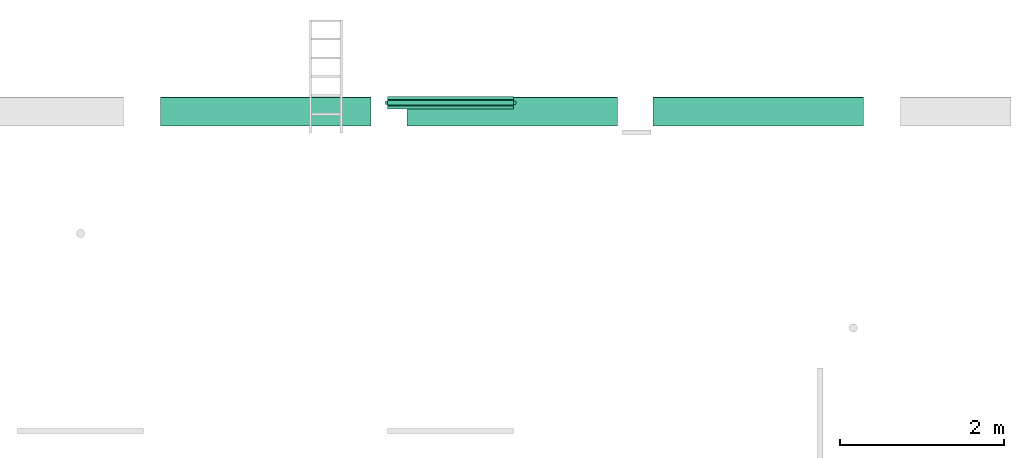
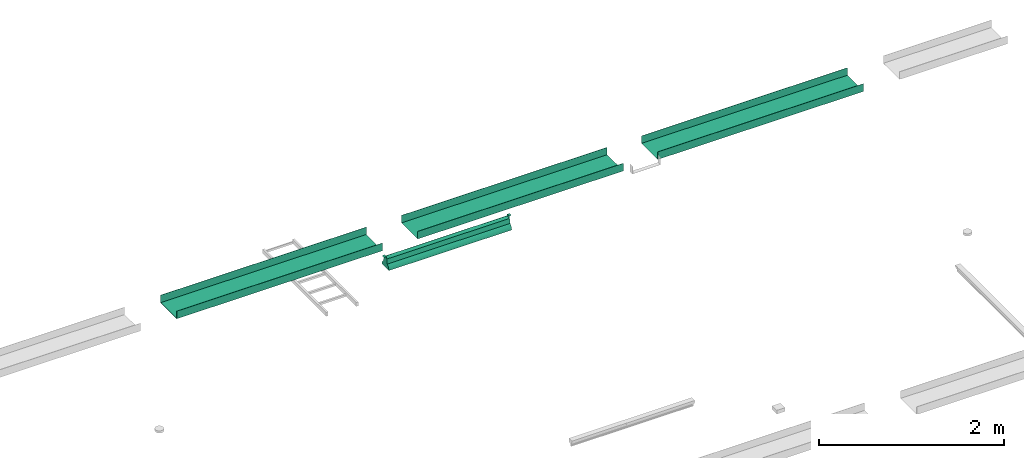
# One storey, part 4 of 14: 3 flow segments, 1 flow terminal.
"""IFC2X3 building model written with IfcOpenShell, lengths in millimetres."""

from ifc_helpers import new_model, entity, si_unit, converted_unit, derived_unit, direction, frame, origin_with_axes, place, context, subcontext, project, spatial, open_shell, surface_model, source, transform, mapped, type_object, element, save


model = new_model("IFC2X3")

# Units and contexts
model_context = context("Model", 3, precision=0.01, world=frame((0.0, 4.29681676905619e-09, 0.0)), true_north=direction((4.01073788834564e-13, 1.0)))
plan_context = context("Plan", 3, precision=0.01, world=frame((0.0, 4.29681676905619e-09, 0.0)), true_north=direction((4.01073788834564e-13, 1.0)))
body_context = subcontext(model_context, "Body", "Model", "MODEL_VIEW")
ifc_project = project(units=[converted_unit("PLANEANGLEUNIT", "DEGREE", entity("IfcPositiveLengthMeasure", 0.0174532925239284), si_unit("PLANEANGLEUNIT", "RADIAN"), dimensions=[0, 0, 0, 0, 0, 0, 0]), si_unit("AREAUNIT", "SQUARE_METRE"), si_unit("LENGTHUNIT", "METRE", prefix="MILLI"), si_unit("MASSUNIT", "GRAM", prefix="KILO"), si_unit("POWERUNIT", "WATT"), si_unit("PRESSUREUNIT", "PASCAL", prefix="KILO"), si_unit("FORCEUNIT", "NEWTON", prefix="KILO"), si_unit("ELECTRICVOLTAGEUNIT", "VOLT"), si_unit("ELECTRICCURRENTUNIT", "AMPERE"), si_unit("THERMODYNAMICTEMPERATUREUNIT", "DEGREE_CELSIUS"), si_unit("TIMEUNIT", "SECOND"), si_unit("VOLUMEUNIT", "CUBIC_METRE"), derived_unit("LINEARVELOCITYUNIT", [(si_unit("LENGTHUNIT", "METRE"), 1), (si_unit("TIMEUNIT", "SECOND"), -1)]), derived_unit("VOLUMETRICFLOWRATEUNIT", [(si_unit("VOLUMEUNIT", "CUBIC_METRE"), 1), (si_unit("TIMEUNIT", "SECOND"), -1)]), derived_unit("THERMALTRANSMITTANCEUNIT", [(si_unit("POWERUNIT", "WATT"), 1), (si_unit("THERMODYNAMICTEMPERATUREUNIT", "KELVIN"), -1), (si_unit("AREAUNIT", "SQUARE_METRE"), -1)]), derived_unit("SOUNDPRESSUREUNIT", [(si_unit("PRESSUREUNIT", "PASCAL"), 1)])], contexts=[model_context, plan_context])

# Site, building, storey
site_placement = place(None, frame((0.0, -4.29681676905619e-09, 0.0), z_axis=(0.0, 0.0, 1.0), x_axis=(1.0, 0.0, 0.0)))
site = spatial("IfcSite", under=ifc_project, at=site_placement, Name="ENGM", CompositionType="ELEMENT")
building_placement = place(site_placement, frame((0.0, 4.29681676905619e-09, 0.0), z_axis=(0.0, 0.0, 1.0), x_axis=(1.0, 0.0, 0.0)))
building = spatial("IfcBuilding", under=site, at=building_placement, Name="TG", CompositionType="ELEMENT")
storey_placement = place(building_placement, frame((0.0, 0.0, 205200.0), z_axis=(0.0, 0.0, 1.0), x_axis=(1.0, 0.0, 0.0)))
storey = spatial("IfcBuildingStorey", under=building, at=storey_placement, Name="Nivå D + 1,2", CompositionType="ELEMENT", Elevation=205200.0)

# Flow segments
cable_carrier_segment_type = type_object("IfcCableCarrierSegmentType", Name="Kabelbane", PredefinedType="CABLETRAYSEGMENT")
shared_shape_1 = source(origin_with_axes(), body_context, "Body", "SurfaceModel", [
    surface_model("IfcShellBasedSurfaceModel", [(0.0, -175.0, 50.0), (0.0, -172.46, -47.46), (0.0, -175.0, -50.0), (0.0, 175.0, -50.0), (0.0, -172.46, 50.0), (0.0, 175.0, 50.0), (0.0, 172.46, -47.46), (0.0, 172.46, 50.0), (2560.02513, -175.0, -50.0), (2560.02513, -172.46, -47.46), (2560.02513, -175.0, 50.0), (2560.02513, 175.0, -50.0), (2560.02513, -172.46, 50.0), (2560.02513, 172.46, -47.46), (2560.02513, 175.0, 50.0), (2560.02513, 172.46, 50.0)], [open_shell([[[0, 1, 2]], [[3, 2, 1]], [[1, 0, 4]], [[5, 3, 6]], [[1, 6, 3]], [[6, 7, 5]], [[8, 9, 10]], [[9, 8, 11]], [[12, 10, 9]], [[13, 11, 14]], [[11, 13, 9]], [[14, 15, 13]], [[2, 8, 10]], [[10, 0, 2]], [[0, 10, 12]], [[12, 4, 0]], [[4, 12, 9]], [[9, 1, 4]], [[1, 9, 13]], [[13, 6, 1]], [[6, 13, 15]], [[15, 7, 6]], [[7, 15, 14]], [[14, 5, 7]], [[5, 14, 11]], [[11, 3, 5]], [[3, 11, 8]], [[8, 2, 3]]])]),
])
for number, where, z_axis, x_axis in (
    (1, (341280.0125, 466385.4934, 4900.0), (0.0, 0.0, 1.0), (-1.0, 0.0, 0.0)),
    (2, (344280.0125, 466385.4934, 4900.0), (0.0, 0.0, 1.0), (-1.0, 0.0, 0.0)),
    (3, (347269.9875, 466385.4934, 4900.0), (0.0, 0.0, 1.0), (-1.0, 0.0, 0.0)),
):
    element("IfcFlowSegment", number, at=place(storey_placement, frame(where, z_axis=z_axis, x_axis=x_axis)), inside=storey, type_object=cable_carrier_segment_type, Name="Kabelbane", context=body_context, shape_type="MappedRepresentation", body=[
        mapped(shared_shape_1, transform((0.0, 0.0, 0.0), scale=1.0)),
    ])

# Flow terminal
light_fixture_type = type_object("IfcLightFixtureType", Name="IB1152", PredefinedType="NOTDEFINED")
shared_shape_2 = source(origin_with_axes(), body_context, "Body", "SurfaceModel", [
    surface_model("IfcShellBasedSurfaceModel", [(0.0, 29.80135, -25.0164), (0.0, 29.99865, -24.9836), (0.1, 39.99864, -85.1336), (0.1, 39.80135, -85.1664), (0.0, -29.99865, -24.9836), (0.0, -29.80135, -25.0164), (0.1, -39.80135, -85.1664), (0.1, -39.99864, -85.1336), (-2e-05, 30.0, -27.0), (-2e-05, 30.0, -27.2), (-2e-05, -30.0, -27.2), (-2e-05, -30.0, -27.0), (-0.1, 39.80135, -85.1664), (-0.1, 39.99864, -85.1336), (-0.1, -39.99864, -85.1336), (-0.1, -39.80135, -85.1664), (2e-05, 30.0, -27.2), (2e-05, 30.0, -27.0), (2e-05, -30.0, -27.0), (2e-05, -30.0, -27.2), (765.00003, 25.0, -0.1), (795.00002, 17.0, -0.1), (795.00002, -17.0, -0.1), (765.00003, -25.0, -0.1), (795.00002, -17.0, 0.1), (795.00002, 17.0, 0.1), (765.00003, 25.0, 0.1), (765.00003, -25.0, 0.1), (765.10003, 30.0, -25.0), (765.10003, 25.0, 0.0), (765.10003, -25.0, 0.0), (765.10003, -30.0, -25.0), (764.89997, -25.0, 0.0), (764.89997, 25.0, 0.0), (764.89997, 30.0, -25.0), (764.89997, -30.0, -25.0), (765.10003, 39.80135, -85.1664), (765.00003, 29.80135, -25.0164), (765.00003, 29.99865, -24.9836), (765.10003, 39.99864, -85.1336), (765.10003, -39.99864, -85.1336), (765.00003, -29.99865, -24.9836), (765.00003, -29.80135, -25.0164), (765.10003, -39.80135, -85.1664), (764.89997, -30.0, -27.0), (764.89997, 30.0, -27.0), (764.89997, -30.0, -27.2), (764.89997, 30.0, -27.2), (765.20002, 40.0, -86.14984), (765.10003, 30.0, -24.99984), (765.10003, -30.0, -24.99984), (765.20002, -40.0, -86.14984), (764.89997, -30.0, -25.00016), (764.89997, 30.0, -25.00016), (765.00003, 40.0, -86.15016), (765.00003, -40.0, -86.15016), (-765.00003, 25.0, 0.1), (-795.00002, 17.0, 0.1), (-795.00002, -17.0, 0.1), (-765.00003, -25.0, 0.1), (-795.00002, -17.0, -0.1), (-795.00002, 17.0, -0.1), (-765.00003, 25.0, -0.1), (-765.00003, -25.0, -0.1), (-764.89997, 30.0, -25.0), (-764.89997, 25.0, 0.0), (-764.89997, -25.0, 0.0), (-764.89997, -30.0, -25.0), (-765.10003, -25.0, 0.0), (-765.10003, 25.0, 0.0), (-765.10003, 30.0, -25.0), (-765.10003, -30.0, -25.0), (-765.10003, 39.99864, -85.1336), (-765.00003, 29.99865, -24.9836), (-765.00003, 29.80135, -25.0164), (-765.10003, 39.80135, -85.1664), (-765.10003, -39.80135, -85.1664), (-765.00003, -29.80135, -25.0164), (-765.00003, -29.99865, -24.9836), (-765.10003, -39.99864, -85.1336), (-764.89997, -30.0, -27.2), (-764.89997, 30.0, -27.2), (-764.89997, -30.0, -27.0), (-764.89997, 30.0, -27.0), (-765.00003, 40.0, -86.15016), (-764.89997, 30.0, -25.00016), (-764.89997, -30.0, -25.00016), (-765.00003, -40.0, -86.15016), (-765.10003, -30.0, -24.99984), (-765.10003, 30.0, -24.99984), (-765.20002, 40.0, -86.14984), (-765.20002, -40.0, -86.14984), (765.00003, -75.5, -150.0), (765.00003, -74.7, -150.0), (765.00003, -72.9274, -130.45916), (765.00003, -72.15466, -130.66622), (765.00003, -64.6921, -112.65), (765.00003, -65.38492, -112.25), (765.00003, -53.38656, -96.61343), (765.00003, -52.82088, -97.17912), (765.00003, -37.75, -84.61508), (765.00003, -37.35, -85.3079), (765.00003, -19.33378, -77.84534), (765.00003, -19.54084, -77.0726), (765.00003, 0.0, -74.5), (765.00003, 0.0, -75.3), (765.00003, 64.6921, -112.65), (765.00003, 72.15466, -130.66622), (765.00003, 65.38492, -112.25), (765.00003, 72.9274, -130.45916), (765.00003, 53.38656, -96.61343), (765.00003, 74.7, -150.0), (765.00003, 75.5, -150.0), (765.00003, 19.33378, -77.84534), (765.00003, 19.54084, -77.0726), (765.00003, 37.35, -85.3079), (765.00003, 52.82088, -97.17912), (765.00003, 37.75, -84.61508), (-765.00003, 75.5, -150.0), (-765.00003, 74.7, -150.0), (-765.00003, 72.9274, -130.45916), (-765.00003, 72.15466, -130.66622), (-765.00003, 64.6921, -112.65), (-765.00003, 65.38492, -112.25), (-765.00003, 53.38656, -96.61343), (-765.00003, 52.82088, -97.17912), (-765.00003, 37.75, -84.61508), (-765.00003, 37.35, -85.3079), (-765.00003, 19.33378, -77.84534), (-765.00003, 19.54084, -77.0726), (-765.00003, 0.0, -74.5), (-765.00003, 0.0, -75.3), (-765.00003, -64.6921, -112.65), (-765.00003, -72.15466, -130.66622), (-765.00003, -65.38492, -112.25), (-765.00003, -72.9274, -130.45916), (-765.00003, -53.38656, -96.61343), (-765.00003, -74.7, -150.0), (-765.00003, -75.5, -150.0), (-765.00003, -19.33378, -77.84534), (-765.00003, -19.54084, -77.0726), (-765.00003, -37.35, -85.3079), (-765.00003, -52.82088, -97.17912), (-765.00003, -37.75, -84.61508), (765.10003, -75.5, -150.0), (765.10003, 0.0, -150.0), (765.10003, -72.9274, -130.45916), (765.10003, -65.38492, -112.25), (765.10003, -53.38656, -96.61343), (765.10003, -37.75, -84.61508), (765.10003, -19.54084, -77.0726), (765.10003, 0.0, -74.5), (765.10003, 72.9274, -130.45916), (765.10003, 65.38492, -112.25), (765.10003, 53.38656, -96.61343), (765.10003, 19.54084, -77.0726), (765.10003, 37.75, -84.61508), (765.10003, 75.5, -150.0), (764.89997, 75.5, -150.0), (764.89997, 0.0, -150.0), (764.89997, 72.9274, -130.45916), (764.89997, 65.38492, -112.25), (764.89997, 53.38656, -96.61343), (764.89997, 37.75, -84.61508), (764.89997, 19.54084, -77.0726), (764.89997, 0.0, -74.5), (764.89997, -72.9274, -130.45916), (764.89997, -65.38492, -112.25), (764.89997, -53.38656, -96.61343), (764.89997, -19.54084, -77.0726), (764.89997, -37.75, -84.61508), (764.89997, -75.5, -150.0), (-764.89997, -75.5, -150.0), (-764.89997, 0.0, -150.0), (-764.89997, -72.9274, -130.45916), (-764.89997, -65.38492, -112.25), (-764.89997, -53.38656, -96.61343), (-764.89997, -37.75, -84.61508), (-764.89997, -19.54084, -77.0726), (-764.89997, 0.0, -74.5), (-764.89997, 72.9274, -130.45916), (-764.89997, 65.38492, -112.25), (-764.89997, 53.38656, -96.61343), (-764.89997, 19.54084, -77.0726), (-764.89997, 37.75, -84.61508), (-764.89997, 75.5, -150.0), (-765.10003, 75.5, -150.0), (-765.10003, 0.0, -150.0), (-765.10003, 72.9274, -130.45916), (-765.10003, 65.38492, -112.25), (-765.10003, 53.38656, -96.61343), (-765.10003, 37.75, -84.61508), (-765.10003, 19.54084, -77.0726), (-765.10003, 0.0, -74.5), (-765.10003, -72.9274, -130.45916), (-765.10003, -65.38492, -112.25), (-765.10003, -53.38656, -96.61343), (-765.10003, -19.54084, -77.0726), (-765.10003, -37.75, -84.61508), (-765.10003, -75.5, -150.0)], [open_shell([[[0, 1, 2]], [[2, 3, 0]], [[4, 5, 6]], [[6, 7, 4]], [[8, 9, 10]], [[10, 11, 8]], [[1, 0, 12]], [[12, 13, 1]], [[5, 4, 14]], [[14, 15, 5]], [[16, 17, 18]], [[18, 19, 16]], [[20, 21, 22]], [[22, 23, 20]], [[24, 25, 26]], [[26, 27, 24]], [[23, 27, 26]], [[26, 20, 23]], [[20, 26, 25]], [[25, 21, 20]], [[21, 25, 24]], [[24, 22, 21]], [[22, 24, 27]], [[27, 23, 22]], [[28, 29, 30]], [[30, 31, 28]], [[32, 33, 34]], [[34, 35, 32]], [[31, 35, 34]], [[34, 28, 31]], [[28, 34, 33]], [[33, 29, 28]], [[29, 33, 32]], [[32, 30, 29]], [[30, 32, 35]], [[35, 31, 30]], [[36, 37, 0]], [[0, 3, 36]], [[1, 38, 39]], [[39, 2, 1]], [[3, 2, 39]], [[39, 36, 3]], [[36, 39, 38]], [[38, 37, 36]], [[37, 38, 1]], [[1, 0, 37]], [[40, 41, 4]], [[4, 7, 40]], [[5, 42, 43]], [[43, 6, 5]], [[7, 6, 43]], [[43, 40, 7]], [[40, 43, 42]], [[42, 41, 40]], [[41, 42, 5]], [[5, 4, 41]], [[8, 11, 44]], [[44, 45, 8]], [[46, 10, 9]], [[9, 47, 46]], [[45, 47, 9]], [[9, 8, 45]], [[11, 10, 46]], [[46, 44, 11]], [[44, 46, 47]], [[47, 45, 44]], [[48, 49, 50]], [[50, 51, 48]], [[52, 53, 54]], [[54, 55, 52]], [[51, 55, 54]], [[54, 48, 51]], [[48, 54, 53]], [[53, 49, 48]], [[49, 53, 52]], [[52, 50, 49]], [[50, 52, 55]], [[55, 51, 50]], [[56, 57, 58]], [[58, 59, 56]], [[60, 61, 62]], [[62, 63, 60]], [[59, 63, 62]], [[62, 56, 59]], [[56, 62, 61]], [[61, 57, 56]], [[57, 61, 60]], [[60, 58, 57]], [[58, 60, 63]], [[63, 59, 58]], [[64, 65, 66]], [[66, 67, 64]], [[68, 69, 70]], [[70, 71, 68]], [[67, 71, 70]], [[70, 64, 67]], [[64, 70, 69]], [[69, 65, 64]], [[65, 69, 68]], [[68, 66, 65]], [[66, 68, 71]], [[71, 67, 66]], [[72, 73, 1]], [[1, 13, 72]], [[0, 74, 75]], [[75, 12, 0]], [[13, 12, 75]], [[75, 72, 13]], [[72, 75, 74]], [[74, 73, 72]], [[73, 74, 0]], [[0, 1, 73]], [[76, 77, 5]], [[5, 15, 76]], [[4, 78, 79]], [[79, 14, 4]], [[15, 14, 79]], [[79, 76, 15]], [[76, 79, 78]], [[78, 77, 76]], [[77, 78, 4]], [[4, 5, 77]], [[16, 19, 80]], [[80, 81, 16]], [[82, 18, 17]], [[17, 83, 82]], [[81, 83, 17]], [[17, 16, 81]], [[19, 18, 82]], [[82, 80, 19]], [[80, 82, 83]], [[83, 81, 80]], [[84, 85, 86]], [[86, 87, 84]], [[88, 89, 90]], [[90, 91, 88]], [[87, 91, 90]], [[90, 84, 87]], [[84, 90, 89]], [[89, 85, 84]], [[85, 89, 88]], [[88, 86, 85]], [[86, 88, 91]], [[91, 87, 86]], [[92, 93, 94]], [[94, 93, 95]], [[95, 96, 97]], [[97, 96, 98]], [[95, 97, 94]], [[98, 99, 100]], [[99, 98, 96]], [[100, 99, 101]], [[101, 102, 103]], [[104, 102, 105]], [[102, 104, 103]], [[101, 103, 100]], [[106, 107, 108]], [[108, 107, 109]], [[106, 108, 110]], [[109, 111, 112]], [[111, 109, 107]], [[104, 113, 114]], [[105, 113, 104]], [[114, 113, 115]], [[116, 110, 117]], [[110, 116, 106]], [[115, 117, 114]], [[117, 115, 116]], [[118, 119, 120]], [[120, 119, 121]], [[121, 122, 123]], [[123, 122, 124]], [[121, 123, 120]], [[124, 125, 126]], [[125, 124, 122]], [[126, 125, 127]], [[127, 128, 129]], [[130, 128, 131]], [[128, 130, 129]], [[127, 129, 126]], [[132, 133, 134]], [[134, 133, 135]], [[132, 134, 136]], [[135, 137, 138]], [[137, 135, 133]], [[130, 139, 140]], [[131, 139, 130]], [[140, 139, 141]], [[142, 136, 143]], [[136, 142, 132]], [[141, 143, 140]], [[143, 141, 142]], [[92, 138, 137]], [[137, 93, 92]], [[96, 95, 132]], [[95, 93, 137]], [[101, 99, 141]], [[142, 99, 96]], [[101, 139, 102]], [[137, 133, 95]], [[133, 132, 95]], [[132, 142, 96]], [[142, 141, 99]], [[101, 141, 139]], [[139, 131, 102]], [[131, 105, 102]], [[115, 113, 127]], [[115, 125, 116]], [[107, 106, 121]], [[122, 106, 116]], [[111, 107, 119]], [[105, 128, 113]], [[128, 127, 113]], [[131, 128, 105]], [[127, 125, 115]], [[125, 122, 116]], [[106, 122, 121]], [[121, 119, 107]], [[111, 119, 118]], [[118, 112, 111]], [[109, 120, 123]], [[124, 108, 123]], [[117, 126, 129]], [[124, 126, 110]], [[114, 129, 130]], [[112, 118, 109]], [[118, 120, 109]], [[123, 108, 109]], [[124, 110, 108]], [[117, 110, 126]], [[129, 114, 117]], [[130, 104, 114]], [[103, 140, 143]], [[136, 100, 143]], [[97, 134, 135]], [[136, 134, 98]], [[94, 135, 138]], [[140, 103, 104]], [[143, 100, 103]], [[136, 98, 100]], [[134, 97, 98]], [[94, 97, 135]], [[138, 92, 94]], [[140, 104, 130]], [[144, 145, 146]], [[146, 145, 147]], [[147, 145, 148]], [[148, 145, 149]], [[145, 150, 149]], [[145, 151, 150]], [[145, 152, 153]], [[154, 145, 153]], [[145, 155, 151]], [[155, 145, 156]], [[156, 145, 154]], [[145, 157, 152]], [[158, 159, 160]], [[160, 159, 161]], [[161, 159, 162]], [[162, 159, 163]], [[159, 164, 163]], [[159, 165, 164]], [[159, 166, 167]], [[168, 159, 167]], [[159, 169, 165]], [[169, 159, 170]], [[170, 159, 168]], [[159, 171, 166]], [[144, 171, 159]], [[159, 145, 144]], [[145, 159, 158]], [[158, 157, 145]], [[160, 152, 158]], [[161, 153, 160]], [[156, 162, 163]], [[161, 162, 154]], [[155, 163, 164]], [[160, 153, 152]], [[152, 157, 158]], [[155, 156, 163]], [[154, 162, 156]], [[154, 153, 161]], [[151, 155, 164]], [[164, 165, 151]], [[169, 150, 165]], [[170, 149, 169]], [[147, 168, 167]], [[170, 168, 148]], [[146, 167, 166]], [[170, 148, 149]], [[149, 150, 169]], [[144, 146, 166]], [[147, 167, 146]], [[147, 148, 168]], [[171, 144, 166]], [[165, 150, 151]], [[172, 173, 174]], [[174, 173, 175]], [[175, 173, 176]], [[176, 173, 177]], [[173, 178, 177]], [[173, 179, 178]], [[173, 180, 181]], [[182, 173, 181]], [[173, 183, 179]], [[183, 173, 184]], [[184, 173, 182]], [[173, 185, 180]], [[186, 187, 188]], [[188, 187, 189]], [[189, 187, 190]], [[190, 187, 191]], [[187, 192, 191]], [[187, 193, 192]], [[187, 194, 195]], [[196, 187, 195]], [[187, 197, 193]], [[197, 187, 198]], [[198, 187, 196]], [[187, 199, 194]], [[172, 199, 187]], [[187, 173, 172]], [[173, 187, 186]], [[186, 185, 173]], [[188, 180, 186]], [[189, 181, 188]], [[184, 190, 191]], [[189, 190, 182]], [[183, 191, 192]], [[188, 181, 180]], [[180, 185, 186]], [[183, 184, 191]], [[182, 190, 184]], [[182, 181, 189]], [[179, 183, 192]], [[192, 193, 179]], [[197, 178, 193]], [[198, 177, 197]], [[175, 196, 195]], [[198, 196, 176]], [[174, 195, 194]], [[198, 176, 177]], [[177, 178, 197]], [[172, 174, 194]], [[175, 195, 174]], [[175, 176, 196]], [[199, 172, 194]], [[193, 178, 179]]])]),
])
flow_terminal_placement = place(storey_placement, frame((342245.8125, 466492.9822, 4542.10000000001), z_axis=(0.0, 0.0, 1.0), x_axis=(-1.0, 0.0, 0.0)))
element("IfcFlowTerminal", 4, at=flow_terminal_placement, inside=storey, type_object=light_fixture_type, Name="IB1152", context=body_context, shape_type="MappedRepresentation", body=[
    mapped(shared_shape_2, transform((0.0, 0.0, 0.0), scale=1.0)),
])

save(model, "model.ifc")
